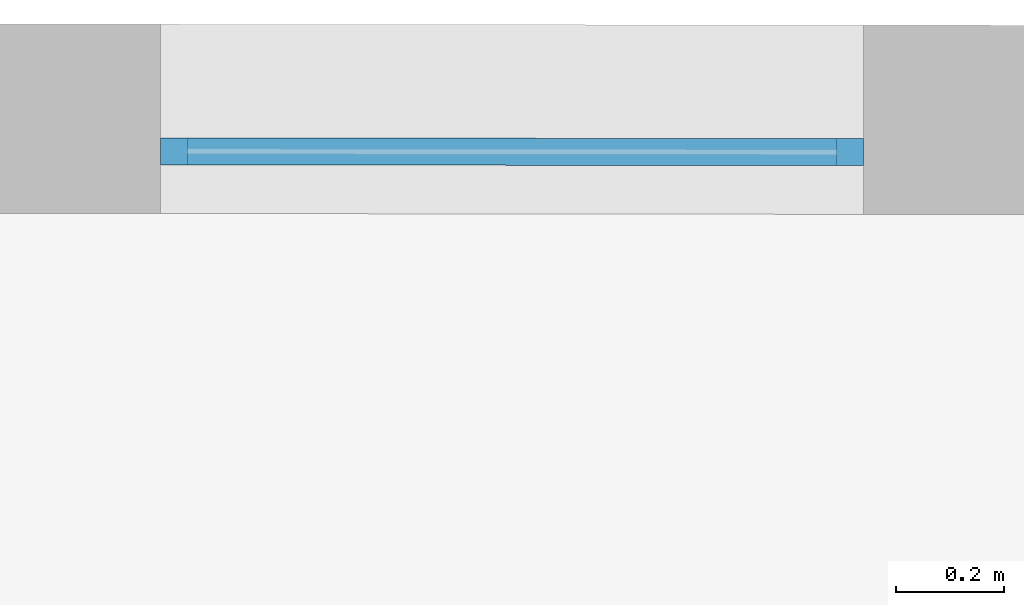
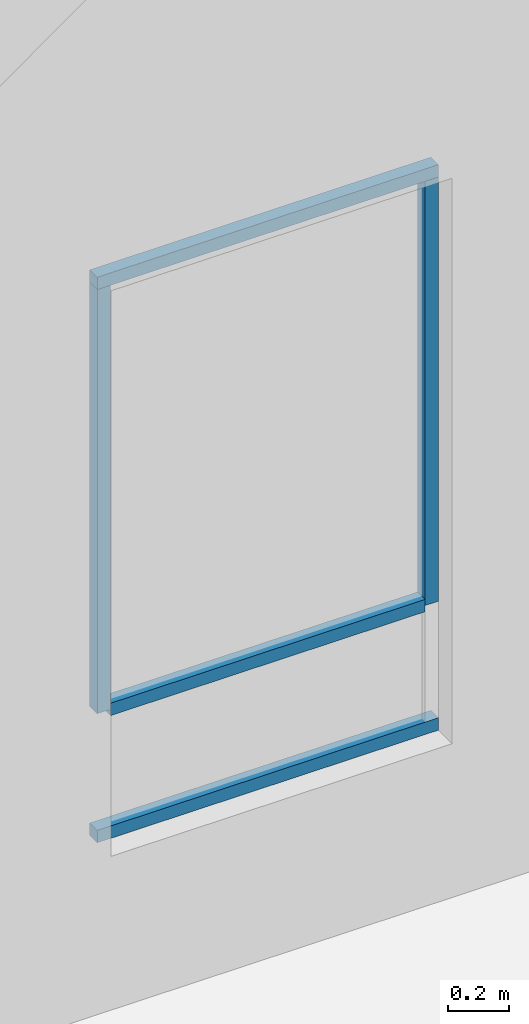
# One storey, part 12 of 35: 5 members, 1 element without a shape of its own.
"""IFC2X3 building model written with IfcOpenShell, lengths in metres."""

import ifcopenshell
import ifcopenshell.guid

model = None  # the IFC model being written
_history = None  # IfcOwnerHistory: only IFC2X3 demands one
_inside = {}  # id of a spatial element -> (the spatial element, [elements in it])
_under = {}  # id of a project, library or spatial element -> (it, [spatial elements below it])
_declared = {}  # id of a project -> (the project, [libraries it declares])
_typed = {}  # id of a type object -> (the type object, [elements of that type])
_made_of = {}  # id of a material, layer set ... -> (it, [elements and type objects made of it])


def new_model(schema):
    """Start an empty IFC model of exactly this schema.

    Asked for "IFC4X3", IfcOpenShell would pick the latest addendum, in which some entities
    have other attributes; the version numbers below select the first issue.
    IFC2X3 requires an IfcOwnerHistory on every rooted entity: one is made here for all.
    """
    global model, _history
    if schema == "IFC4X3":
        model = ifcopenshell.file(schema_version=(4, 3, 0, 0))
    else:
        model = ifcopenshell.file(schema=schema)
    _inside.clear()
    _under.clear()
    _declared.clear()
    _typed.clear()
    _made_of.clear()
    _history = None
    if model.schema == "IFC2X3":
        org = make("IfcOrganization", Name="unknown")
        user = make(
            "IfcPersonAndOrganization",
            ThePerson=make("IfcPerson", FamilyName="unknown"),
            TheOrganization=org,
        )
        app = make(
            "IfcApplication",
            ApplicationDeveloper=org,
            Version="unknown",
            ApplicationFullName="unknown",
            ApplicationIdentifier="unknown",
        )
        _history = make(
            "IfcOwnerHistory",
            OwningUser=user,
            OwningApplication=app,
            ChangeAction="ADDED",
            CreationDate=0,
        )
    return model


def make(cls, **values):
    """One entity of the class cls with the attributes given. An attribute that is None is left unset."""
    return model.create_entity(
        cls, **{name: value for name, value in values.items() if value is not None}
    )


def entity(cls, *values):
    """Any entity or typed value of the class cls, its attributes in the order of the schema. None: left unset."""
    e = model.create_entity(cls)
    for i, value in enumerate(values):
        if value is not None:
            e[i] = value
    return e


def rooted(cls, **values):
    """An entity with a GlobalId (a new one), such as an element, a storey or a relation."""
    return make(cls, GlobalId=ifcopenshell.guid.new(), OwnerHistory=_history, **values)


def si_unit(unit_type, name, prefix=None):
    """IfcSIUnit, for example si_unit("LENGTHUNIT", "METRE", prefix="MILLI")."""
    return make("IfcSIUnit", UnitType=unit_type, Prefix=prefix, Name=name)


def converted_unit(unit_type, name, factor, base, dimensions=None, offset=None):
    """IfcConversionBasedUnit, such as the inch: factor (a typed value) times the base unit."""
    return make(
        "IfcConversionBasedUnit"
        if offset is None
        else "IfcConversionBasedUnitWithOffset",
        ConversionOffset=offset,
        Dimensions=None
        if dimensions is None
        else entity("IfcDimensionalExponents", *dimensions),
        UnitType=unit_type,
        Name=name,
        ConversionFactor=make(
            "IfcMeasureWithUnit", ValueComponent=factor, UnitComponent=base
        ),
    )


def derived_unit(unit_type, elements):
    """IfcDerivedUnit: a product of units, each with its exponent."""
    return make(
        "IfcDerivedUnit",
        Elements=[
            make("IfcDerivedUnitElement", Unit=unit, Exponent=power)
            for unit, power in elements
        ],
        UnitType=unit_type,
    )


def assignment(units):
    """IfcUnitAssignment: the units of a project."""
    return None if units is None else make("IfcUnitAssignment", Units=units)


def point(xyz):
    """IfcCartesianPoint."""
    return None if xyz is None else make("IfcCartesianPoint", Coordinates=xyz)


def direction(xyz):
    """IfcDirection."""
    return None if xyz is None else make("IfcDirection", DirectionRatios=xyz)


def frame(location, z_axis=None, x_axis=None):
    """IfcAxis2Placement3D, a coordinate frame: its origin and axes. An axis left out is left unset."""
    return make(
        "IfcAxis2Placement3D",
        Location=point(location),
        Axis=direction(z_axis),
        RefDirection=direction(x_axis),
    )


def frame_2d(location, x_axis=None):
    """IfcAxis2Placement2D, a coordinate frame in the plane: its origin and x axis."""
    return make(
        "IfcAxis2Placement2D", Location=point(location), RefDirection=direction(x_axis)
    )


def origin():
    """The frame at (0, 0, 0) with its axes left unset."""
    return frame((0.0, 0.0, 0.0))


def origin_2d_with_axis():
    """The frame at (0, 0) in the plane with the x axis (1, 0) written out."""
    return frame_2d((0.0, 0.0), x_axis=(1.0, 0.0))


def place(relative_to, where):
    """IfcLocalPlacement: puts the frame where relative to a parent placement (None: the world)."""
    return make(
        "IfcLocalPlacement", PlacementRelTo=relative_to, RelativePlacement=where
    )


def context(
    kind, dimensions, precision=None, world=None, true_north=None, identifier=None
):
    """IfcGeometricRepresentationContext, for example the 3D "Model" context."""
    return make(
        "IfcGeometricRepresentationContext",
        ContextIdentifier=identifier,
        ContextType=kind,
        CoordinateSpaceDimension=dimensions,
        Precision=precision,
        WorldCoordinateSystem=world,
        TrueNorth=true_north,
    )


def subcontext(parent, identifier, kind, view, scale=None):
    """IfcGeometricRepresentationSubContext, for example "Body" below "Model"."""
    return make(
        "IfcGeometricRepresentationSubContext",
        ContextIdentifier=identifier,
        ContextType=kind,
        ParentContext=parent,
        TargetScale=scale,
        TargetView=view,
    )


def project(units=None, contexts=None):
    """IfcProject with its units and contexts."""
    return rooted(
        "IfcProject",
        Name="project",
        RepresentationContexts=contexts,
        UnitsInContext=assignment(units),
    )


def spatial(cls, under=None, at=None, **own):
    """A site, building, storey or space (cls), placed at a placement, below another one or the project."""
    s = rooted(cls, ObjectPlacement=at, **own)
    if under is not None:
        _under.setdefault(under.id(), (under, []))[1].append(s)
    return s


def profile(cls, at=None, kind="AREA", **sizes):
    """A parametric profile (cls). Its sizes go by their IFC names, for example OverallWidth=200.0."""
    return make(cls, ProfileType=kind, Position=at, **sizes)


def rectangle(**sizes):
    """IfcRectangleProfileDef."""
    return profile("IfcRectangleProfileDef", **sizes)


def extrude(swept, where, along, depth):
    """IfcExtrudedAreaSolid: the profile swept, set in the frame where, extruded along a direction by depth."""
    return make(
        "IfcExtrudedAreaSolid",
        SweptArea=swept,
        Position=where,
        ExtrudedDirection=direction(along),
        Depth=depth,
    )


def shape(context_of_items, identifier, shape_type, items):
    """IfcShapeRepresentation: the items that make up one representation, for example the "Body"."""
    return make(
        "IfcShapeRepresentation",
        ContextOfItems=context_of_items,
        RepresentationIdentifier=identifier,
        RepresentationType=shape_type,
        Items=items,
    )


def source(mapping_origin, context_of_items, identifier, shape_type, items):
    """IfcRepresentationMap: a shape defined once, which mapped items show again and again."""
    return make(
        "IfcRepresentationMap",
        MappingOrigin=mapping_origin,
        MappedRepresentation=shape(context_of_items, identifier, shape_type, items),
    )


def transform(
    local_origin,
    x_axis=None,
    y_axis=None,
    z_axis=None,
    scale=None,
    scale2=None,
    scale3=None,
    uniform=True,
):
    """IfcCartesianTransformationOperator3D, or its non-uniform kind. x_axis, y_axis, z_axis: its Axis1, 2, 3."""
    if uniform:
        return make(
            "IfcCartesianTransformationOperator3D",
            Axis1=direction(x_axis),
            Axis2=direction(y_axis),
            LocalOrigin=point(local_origin),
            Scale=scale,
            Axis3=direction(z_axis),
        )
    return make(
        "IfcCartesianTransformationOperator3DnonUniform",
        Axis1=direction(x_axis),
        Axis2=direction(y_axis),
        LocalOrigin=point(local_origin),
        Scale=scale,
        Axis3=direction(z_axis),
        Scale2=scale2,
        Scale3=scale3,
    )


def mapped(mapping_source, mapping_target):
    """IfcMappedItem: shows the shape of a source again, moved by a transform."""
    return make(
        "IfcMappedItem", MappingSource=mapping_source, MappingTarget=mapping_target
    )


def material(Name=None, Category=None):
    """IfcMaterial."""
    return make("IfcMaterial", Name=Name, Category=Category)


def made_of(thing, what):
    """Note that an element or type object is made of a material, layer set ...; save() writes the relation."""
    if what is not None:
        _made_of.setdefault(what.id(), (what, []))[1].append(thing)
    return thing


def type_object(cls, material=None, **own):
    """A type object (cls), such as IfcWallType, which elements share."""
    return made_of(rooted(cls, **own), material)


def type_shapes(of_type, sources):
    """Give a type object the sources (RepresentationMaps) that its elements show as mapped items."""
    of_type.RepresentationMaps = sources


def element(
    cls,
    number,
    at=None,
    inside=None,
    cuts=None,
    type_object=None,
    material=None,
    context=None,
    identifier="Body",
    shape_type=None,
    held_by="IfcProductDefinitionShape",
    body=None,
    shapes=None,
    **own,
):
    """One element of the class cls, such as IfcWall. Its Tag is "e" and its number.

    at: its placement. inside: the storey or other place that contains it. cuts: it is an
    opening in that element (IfcRelVoidsElement). A single representation is given by context,
    identifier, shape_type and body (its items); several are given by shapes. held_by: the class
    of the entity that holds the representations. save() writes the other relations.
    """
    e = rooted(cls, Tag="e%d" % number, ObjectPlacement=at, **own)
    if body is not None:
        shapes = [shape(context, identifier, shape_type, body)]
    if shapes is not None:
        e.Representation = make(held_by, Representations=shapes)
    if inside is not None:
        _inside.setdefault(inside.id(), (inside, []))[1].append(e)
    if cuts is not None:
        rooted(
            "IfcRelVoidsElement", RelatingBuildingElement=cuts, RelatedOpeningElement=e
        )
    if type_object is not None:
        _typed.setdefault(type_object.id(), (type_object, []))[1].append(e)
    return made_of(e, material)


def aggregate(whole, parts):
    """IfcRelAggregates: a whole, such as a stair, and the parts it consists of."""
    return rooted("IfcRelAggregates", RelatingObject=whole, RelatedObjects=parts)


def save(model, path):
    """Write the relations noted so far, then the file.

    IfcRelAggregates (storeys below a building ...), IfcRelContainedInSpatialStructure (elements
    in a storey), IfcRelDefinesByType, IfcRelAssociatesMaterial and IfcRelDeclares: one each for
    every whole, place, type object, material and project.
    """
    for whole, parts in _under.values():
        aggregate(whole, parts)
    for where, things in _inside.values():
        rooted(
            "IfcRelContainedInSpatialStructure",
            RelatedElements=things,
            RelatingStructure=where,
        )
    for kind, things in _typed.values():
        rooted("IfcRelDefinesByType", RelatedObjects=things, RelatingType=kind)
    for what, things in _made_of.values():
        rooted("IfcRelAssociatesMaterial", RelatedObjects=things, RelatingMaterial=what)
    for by, libraries in _declared.values():
        rooted("IfcRelDeclares", RelatingContext=by, RelatedDefinitions=libraries)
    model.write(path)


model = new_model("IFC2X3")

# Units and contexts
model_context = context("Model", 3, precision=1e-05, world=origin(), true_north=direction((6.123233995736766e-17, 1.0)))
body_context = subcontext(model_context, "Body", "Model", "MODEL_VIEW")
ifc_project = project(units=[si_unit("LENGTHUNIT", "METRE"), si_unit("AREAUNIT", "SQUARE_METRE"), converted_unit("PLANEANGLEUNIT", "DEGREE", entity("IfcPlaneAngleMeasure", 0.017453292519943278), si_unit("PLANEANGLEUNIT", "RADIAN"), dimensions=[0, 0, 0, 0, 0, 0, 0]), derived_unit("THERMALTRANSMITTANCEUNIT", [(si_unit("MASSUNIT", "GRAM", prefix="KILO"), 1), (si_unit("THERMODYNAMICTEMPERATUREUNIT", "KELVIN"), -1), (si_unit("TIMEUNIT", "SECOND"), -3)])], contexts=[model_context])

# Site, building, storey
site_placement = place(None, frame((1253.6752467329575, 2072.143113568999, 91.49999999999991), z_axis=(0.0, 0.0, 1.0), x_axis=(0.7237211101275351, 0.6900925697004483, 0.0)))
site = spatial("IfcSite", under=ifc_project, at=site_placement, Name="Surface", CompositionType="ELEMENT")
building_placement = place(site_placement, origin())
building = spatial("IfcBuilding", under=site, at=building_placement, CompositionType="ELEMENT")
storey_placement = place(building_placement, frame((0.0, 0.0, 3.549999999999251)))
storey = spatial("IfcBuildingStorey", under=building, at=storey_placement, Name="1-R+1", CompositionType="ELEMENT", Elevation=3.549999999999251)

# Curtain wall, members
curtain_wall_type = type_object("IfcCurtainWallType", Name="Mur-rideau:Menuiserie Ext 1F+1OB VERTIC", PredefinedType="NOTDEFINED")
curtain_wall_placement = place(storey_placement, frame((0.0, 0.0, -3.549999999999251)))
curtain_wall = element("IfcCurtainWall", 1, at=curtain_wall_placement, inside=storey, type_object=curtain_wall_type, Name="Mur-rideau:Menuiserie Ext 1F+1OB VERTIC", ObjectType="Mur-rideau:Menuiserie Ext 1F+1OB VERTIC")
ifc_material = material(Name="OMD_Aluminium Men Ext")
member_type_1 = type_object("IfcMemberType", Name="Meneau rectangulaire:50x50", PredefinedType="MULLION", material=ifc_material)
shared_shape_1 = source(origin(), body_context, "Body", "SweptSolid", [
    extrude(rectangle(XDim=0.05, YDim=0.05, at=origin_2d_with_axis()), frame((-0.025, 0.0, -1.2996959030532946), z_axis=(0.0, 0.0, 1.0), x_axis=(-1.0, 0.0, 0.0)), (0.0, 0.0, 1.0), 1.299695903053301),
])
type_shapes(member_type_1, [shared_shape_1])
member_1_placement = place(curtain_wall_placement, frame((170.6209561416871, 23.195735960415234, 6.4499999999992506), z_axis=(-0.722870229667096, 0.6909838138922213, 0.0), x_axis=(0.0, 0.0, 1.0)))
member_1 = element("IfcMember", 2, at=member_1_placement, type_object=member_type_1, material=ifc_material, Name="Meneau rectangulaire:50x50", ObjectType="Meneau rectangulaire:50x50", context=body_context, shape_type="MappedRepresentation", body=[
    mapped(shared_shape_1, transform((0.0, 0.0, 0.0), scale=1.0)),
])
member_type_2 = type_object("IfcMemberType", Name="Meneau rectangulaire:50x50", PredefinedType="MULLION", material=ifc_material)
shared_shape_2 = source(origin(), body_context, "Body", "SweptSolid", [
    extrude(rectangle(XDim=0.05, YDim=0.05, at=origin_2d_with_axis()), frame((-0.025, 0.0, -1.299695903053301), z_axis=(0.0, 0.0, 1.0), x_axis=(-1.0, 0.0, 0.0)), (0.0, 0.0, 1.0), 1.299695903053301),
])
type_shapes(member_type_2, [shared_shape_2])
member_2_placement = place(curtain_wall_placement, frame((171.56046761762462, 22.29766712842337, 4.169999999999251), z_axis=(0.722870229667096, -0.6909838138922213, 0.0), x_axis=(0.0, 0.0, -1.0)))
member_2 = element("IfcMember", 3, at=member_2_placement, type_object=member_type_2, material=ifc_material, Name="Meneau rectangulaire:50x50", ObjectType="Meneau rectangulaire:50x50", context=body_context, shape_type="MappedRepresentation", body=[
    mapped(shared_shape_2, transform((0.0, 0.0, 0.0), scale=1.0)),
])
member_type_3 = type_object("IfcMemberType", Name="Meneau rectangulaire:50x50", PredefinedType="MULLION", material=ifc_material)
shared_shape_3 = source(origin(), body_context, "Body", "SweptSolid", [
    extrude(rectangle(XDim=0.05, YDim=0.05000000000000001, at=origin_2d_with_axis()), frame((-0.025, 0.0, -1.7099999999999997), z_axis=(0.0, 0.0, 1.0), x_axis=(-1.0, 0.0, 0.0)), (0.0, 0.0, 1.0), 1.7099999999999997),
])
type_shapes(member_type_3, [shared_shape_3])
member_3_placement = place(curtain_wall_placement, frame((171.56046761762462, 22.297667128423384, 6.399999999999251), z_axis=(0.0, 0.0, 1.0), x_axis=(0.7228702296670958, -0.6909838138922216, 0.0)))
member_3 = element("IfcMember", 4, at=member_3_placement, type_object=member_type_3, material=ifc_material, Name="Meneau rectangulaire:50x50", ObjectType="Meneau rectangulaire:50x50", context=body_context, shape_type="MappedRepresentation", body=[
    mapped(shared_shape_3, transform((0.0, 0.0, 0.0), scale=1.0)),
])
member_type_4 = type_object("IfcMemberType", Name="Meneau rectangulaire:50x50", PredefinedType="MULLION", material=ifc_material)
shared_shape_4 = source(origin(), body_context, "Body", "SweptSolid", [
    extrude(rectangle(XDim=0.05, YDim=0.049999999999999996, at=origin_2d_with_axis()), frame((-0.025, 0.0, -1.7099999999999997), z_axis=(0.0, 0.0, 1.0), x_axis=(-1.0, 0.0, 0.0)), (0.0, 0.0, 1.0), 1.7099999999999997),
])
type_shapes(member_type_4, [shared_shape_4])
member_4_placement = place(curtain_wall_placement, frame((170.62095614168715, 23.195735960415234, 4.689999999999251), z_axis=(0.0, 0.0, -1.0), x_axis=(-0.7228702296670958, 0.6909838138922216, 0.0)))
member_4 = element("IfcMember", 5, at=member_4_placement, type_object=member_type_4, material=ifc_material, Name="Meneau rectangulaire:50x50", ObjectType="Meneau rectangulaire:50x50", context=body_context, shape_type="MappedRepresentation", body=[
    mapped(shared_shape_4, transform((0.0, 0.0, 0.0), scale=1.0)),
])
member_type_5 = type_object("IfcMemberType", Name="Meneau rectangulaire:50x50", PredefinedType="MULLION", material=ifc_material)
shared_shape_5 = source(origin(), body_context, "Body", "SweptSolid", [
    extrude(rectangle(XDim=0.05, YDim=0.05, at=origin_2d_with_axis()), frame((0.0, 0.0, -1.1996959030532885), z_axis=(0.0, 0.0, 1.0), x_axis=(-1.0, 0.0, 0.0)), (0.0, 0.0, 1.0), 1.199695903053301),
])
type_shapes(member_type_5, [shared_shape_5])
member_5_placement = place(curtain_wall_placement, frame((170.6570996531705, 23.16118676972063, 4.689999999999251), z_axis=(-0.722870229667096, 0.6909838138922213, 0.0), x_axis=(0.0, 0.0, 1.0)))
member_5 = element("IfcMember", 6, at=member_5_placement, type_object=member_type_5, material=ifc_material, Name="Meneau rectangulaire:50x50", ObjectType="Meneau rectangulaire:50x50", context=body_context, shape_type="MappedRepresentation", body=[
    mapped(shared_shape_5, transform((0.0, 0.0, 0.0), scale=1.0)),
])
aggregate(curtain_wall, [member_1, member_2, member_3, member_4, member_5])

save(model, "model.ifc")
